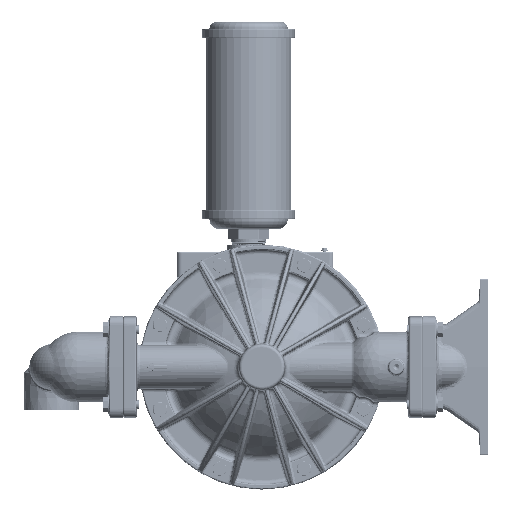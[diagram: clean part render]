
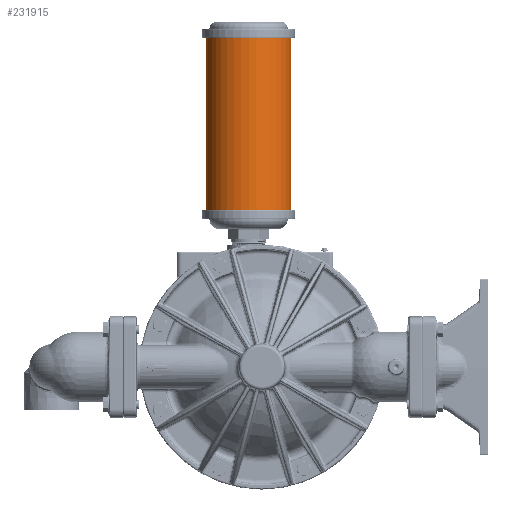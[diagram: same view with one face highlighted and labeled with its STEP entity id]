
A CAD part, left-side view. The second image highlights one B-rep face of the part: STEP entity #231915.
In plain terms, the highlighted cylindrical face has radius 61.722 mm (diameter 123.444 mm), a partial arc.
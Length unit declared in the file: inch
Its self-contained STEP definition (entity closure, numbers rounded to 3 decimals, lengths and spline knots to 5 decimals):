
#3932 = VECTOR ( 'NONE', #54252, 39.37008 ) ;
#13530 = EDGE_CURVE ( 'NONE', #204310, #625659, #655058, .T. ) ;
#24138 = CARTESIAN_POINT ( 'NONE',  ( 0., 0.75, 8.905 ) ) ;
#32752 = DIRECTION ( 'NONE',  ( 0., 0., -1. ) ) ;
#54252 = DIRECTION ( 'NONE',  ( 0., 0., 1. ) ) ;
#92085 = CYLINDRICAL_SURFACE ( 'NONE', #421190, 2.43 ) ;
#151352 = FACE_OUTER_BOUND ( 'NONE', #264628, .T. ) ;
#157458 = AXIS2_PLACEMENT_3D ( 'NONE', #569947, #751797, #210206 ) ;
#192177 = ORIENTED_EDGE ( 'NONE', *, *, #13530, .F. ) ;
#204310 = VERTEX_POINT ( 'NONE', #344365 ) ;
#208752 = CARTESIAN_POINT ( 'NONE',  ( 0., -1.68, 8.905 ) ) ;
#210206 = DIRECTION ( 'NONE',  ( 0., 1., 0. ) ) ;
#217786 = VERTEX_POINT ( 'NONE', #208752 ) ;
#231915 = ADVANCED_FACE ( 'NONE', ( #151352 ), #92085, .T. ) ;
#257691 = ORIENTED_EDGE ( 'NONE', *, *, #411593, .T. ) ;
#264628 = EDGE_LOOP ( 'NONE', ( #257691, #457950, #350875, #192177 ) ) ;
#295636 = CARTESIAN_POINT ( 'NONE',  ( 0., 3.18, 18.685 ) ) ;
#344365 = CARTESIAN_POINT ( 'NONE',  ( 0., 3.18, 8.905 ) ) ;
#350875 = ORIENTED_EDGE ( 'NONE', *, *, #667703, .F. ) ;
#381467 = CARTESIAN_POINT ( 'NONE',  ( 0., -1.68, 8.905 ) ) ;
#400278 = DIRECTION ( 'NONE',  ( 0., -1., 0. ) ) ;
#406346 = VERTEX_POINT ( 'NONE', #619335 ) ;
#411593 = EDGE_CURVE ( 'NONE', #204310, #217786, #418748, .T. ) ;
#418748 = CIRCLE ( 'NONE', #683928, 2.43 ) ;
#421190 = AXIS2_PLACEMENT_3D ( 'NONE', #514922, #32752, #400278 ) ;
#445796 = EDGE_CURVE ( 'NONE', #217786, #406346, #618594, .T. ) ;
#457950 = ORIENTED_EDGE ( 'NONE', *, *, #445796, .T. ) ;
#514922 = CARTESIAN_POINT ( 'NONE',  ( 0., 0.75, 20.1725 ) ) ;
#523648 = CIRCLE ( 'NONE', #157458, 2.43 ) ;
#569947 = CARTESIAN_POINT ( 'NONE',  ( 0., 0.75, 18.685 ) ) ;
#595731 = CARTESIAN_POINT ( 'NONE',  ( 0., 3.18, 8.905 ) ) ;
#605305 = VECTOR ( 'NONE', #737259, 39.37008 ) ;
#618594 = LINE ( 'NONE', #381467, #605305 ) ;
#619335 = CARTESIAN_POINT ( 'NONE',  ( 0., -1.68, 18.685 ) ) ;
#625659 = VERTEX_POINT ( 'NONE', #295636 ) ;
#628829 = DIRECTION ( 'NONE',  ( 0., 0., 1. ) ) ;
#655058 = LINE ( 'NONE', #595731, #3932 ) ;
#667703 = EDGE_CURVE ( 'NONE', #625659, #406346, #523648, .T. ) ;
#683928 = AXIS2_PLACEMENT_3D ( 'NONE', #24138, #628829, #755278 ) ;
#737259 = DIRECTION ( 'NONE',  ( 0., 0., 1. ) ) ;
#751797 = DIRECTION ( 'NONE',  ( 0., 0., 1. ) ) ;
#755278 = DIRECTION ( 'NONE',  ( 0., 1., 0. ) ) ;
